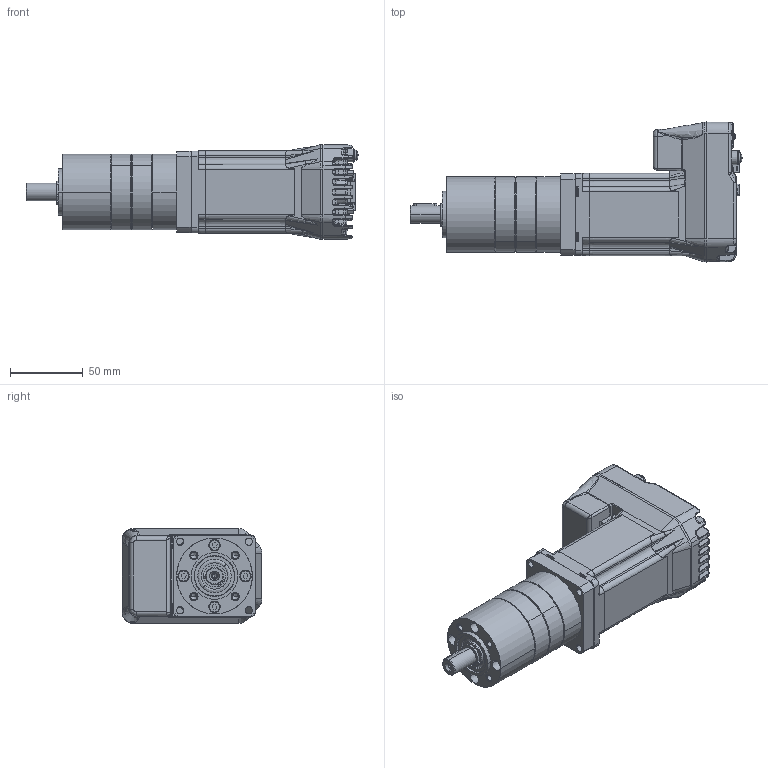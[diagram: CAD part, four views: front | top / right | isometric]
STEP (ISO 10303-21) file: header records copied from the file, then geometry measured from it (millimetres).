
FILE_DESCRIPTION (( 'STEP AP214' ), '1' );
FILE_NAME ('LMD23 + PM52 2etages.STEP', '2016-06-02T15:05:08', ( '' ), ( '' ), 'SwSTEP 2.0', 'SolidWorks 2014', '' );
FILE_SCHEMA (( 'AUTOMOTIVE_DESIGN' ));
Length unit declared in the file: millimetre
Products named in the file (17): LMD23 + PM52 2etages; 8006231_LAGERFLANSCH_2; LMD23_Part; 8102168_ABTRIEB_LK1_KPL_2; PM52 pour EC45Flat-70W_2 etages; SCHRAUBE_1241978_6; Coté sortie^PM52 pour EC45Flat-70W; GK2152_POS31_2_LAGERBOLZEN_2; 8101171_ABTRIEB_ROHTEIL_AF0_2; Coté moteur^PM52 pour EC45Flat-70W; 4X4X16_D6885A_2; ADAPT pm52 POUR lmd23_Part; 8006230_ZAHNKRANZ_Z46_2; D625-6001-2RS_2; 8006405_DICHTRING_2; DIN998_PS_12X18X1_2; D471_12X1_5_2
Assembly tree (26 placements, depth 5):
  LMD23 + PM52 2etages
    PM52 pour EC45Flat-70W_2 etages
      8006405_DICHTRING_2
      8006230_ZAHNKRANZ_Z46_2  x2
      Coté sortie^PM52 pour EC45Flat-70W
        8006231_LAGERFLANSCH_2
        D625-6001-2RS_2  x2
        DIN998_PS_12X18X1_2  x2
        8102168_ABTRIEB_LK1_KPL_2
          8101171_ABTRIEB_ROHTEIL_AF0_2
          GK2152_POS31_2_LAGERBOLZEN_2  x3
        D471_12X1_5_2
        4X4X16_D6885A_2
        8006405_DICHTRING_2
        SCHRAUBE_1241978_6  x4
      Coté moteur^PM52 pour EC45Flat-70W
        8006405_DICHTRING_2
    ADAPT pm52 POUR lmd23_Part
    LMD23_Part
Bounding box: 227.98 x 96.07 x 65.15 mm (x, y, z)
Volume: 527730.5 mm3; surface area: 124630.6 mm2
Topology: 20 solids, 37 shells, 3236 faces, 8329 edges, 5200 vertices
Faces by surface type: plane 1338, cylinder 1068, bspline 587, cone 231, torus 12
Entity records: 161886 total; most frequent: CARTESIAN_POINT 72854, ORIENTED_EDGE 14508, DIRECTION 10246, EDGE_CURVE 7266, VERTEX_POINT 4575, VECTOR 3466, LINE 3466, AXIS2_PLACEMENT_3D 3390
